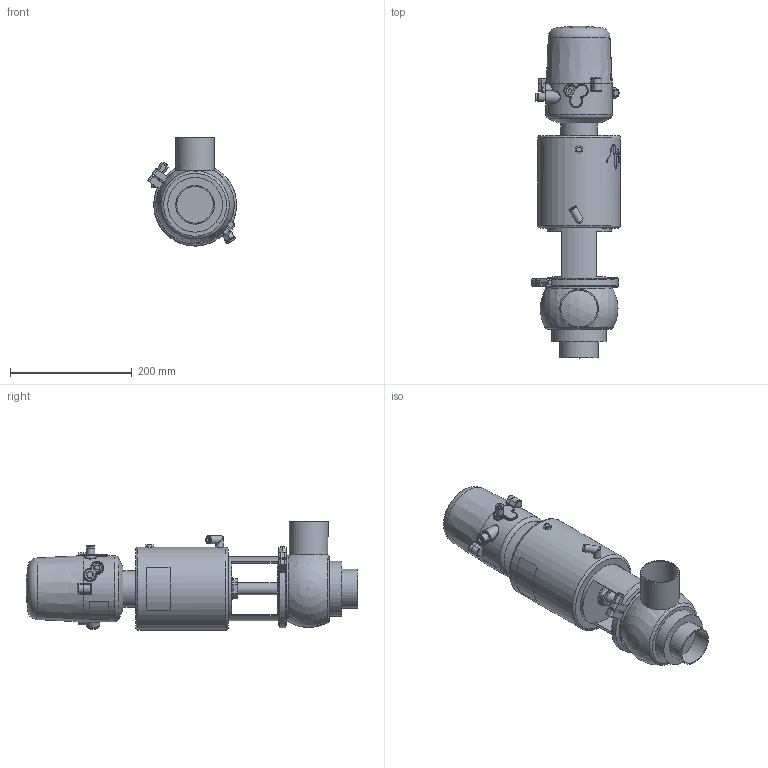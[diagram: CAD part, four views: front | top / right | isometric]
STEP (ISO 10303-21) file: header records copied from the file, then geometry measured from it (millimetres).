
FILE_DESCRIPTION (( 'STEP AP214' ), '1' );
FILE_NAME ('INNOVA N L W OD 2½ T3 AS NC & C-TOP S_10.240.16.0055.STEP', '2024-08-06T08:02:55', ( '' ), ( '' ), 'SwSTEP 2.0', 'SolidWorks 2023', '' );
FILE_SCHEMA (( 'AUTOMOTIVE_DESIGN' ));
Length unit declared in the file: millimetre
Products named in the file (7): INNOVA N L W OD 2½ T3 AS NC & C-TOP S_10.240.16.0055; 10.240.15.0017_Estàndard; 10.240.15.0010_DN 065; 10.240.15.0001_DN 065; 10.240.15.0014_T3 AS P0; 10.426.15.0001_C-TOP S - 1 EV; 10.240.15.0002_OD 2½"
Assembly tree (6 placements, depth 2):
  INNOVA N L W OD 2½ T3 AS NC & C-TOP S_10.240.16.0055
    10.240.15.0002_OD 2½"
    10.240.15.0010_DN 065
    10.240.15.0014_T3 AS P0
    10.240.15.0017_Estàndard
    10.426.15.0001_C-TOP S - 1 EV
    10.240.15.0001_DN 065
Bounding box: 146.15 x 545.5 x 178 mm (x, y, z)
Volume: 4931939.8 mm3; surface area: 362062.1 mm2
Topology: 6 solids, 6 shells, 1099 faces, 2645 edges, 1765 vertices
Faces by surface type: plane 375, cylinder 330, cone 191, bspline 160, torus 37, sphere 6
Full cylindrical faces by diameter (mm): 0.371 x17, 0.512 x16, 0.658 x16, 0.795 x16, 0.94 x15, 1.098 x15, 1.241 x13, 1.382 x13, 1.523 x11, 1.669 x10, 2.201 x1, 4 x2, 5.5 x2, 6 x2, 6.15 x1, 8 x4, 8.5 x1, 10 x1, 10.5 x1, 11 x2, 12.5 x3, 13 x2, 13.5 x2, 16 x1, 17 x3, 20 x3, 20.5 x1, 22 x2, 31 x1, 34.5 x3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
Entity records: 57758 total; most frequent: CARTESIAN_POINT 27813, ORIENTED_EDGE 4486, DIRECTION 3593, EDGE_CURVE 2243, VERTEX_POINT 1593, EDGE_LOOP 1546, AXIS2_PLACEMENT_3D 1468, FACE_OUTER_BOUND 1311
